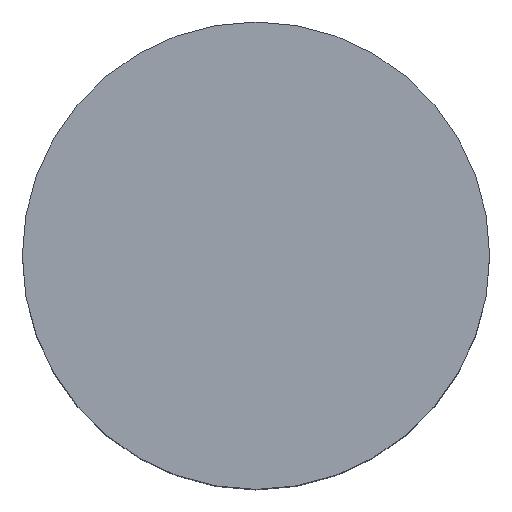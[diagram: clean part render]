
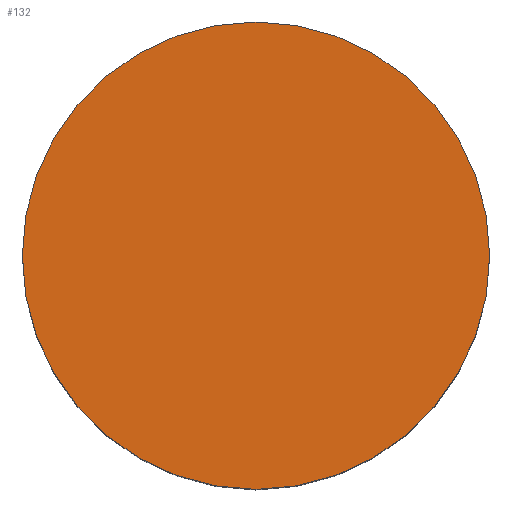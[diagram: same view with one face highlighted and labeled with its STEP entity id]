
A CAD part, top view. The second image highlights one B-rep face of the part: STEP entity #132.
In plain terms, the highlighted planar face has unit normal (0, 0, 1).
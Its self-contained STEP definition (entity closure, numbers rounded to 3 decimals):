
#4 = ORIENTED_EDGE ( 'NONE', *, *, #75, .T. ) ;
#10 = CIRCLE ( 'NONE', #52, 4.95 ) ;
#12 = PLANE ( 'NONE',  #146 ) ;
#23 = DIRECTION ( 'NONE',  ( 0., 0., 1. ) ) ;
#24 = CARTESIAN_POINT ( 'NONE',  ( 0., 0., 7.1 ) ) ;
#25 = DIRECTION ( 'NONE',  ( 1., 0., 0. ) ) ;
#28 = EDGE_LOOP ( 'NONE', ( #4, #73 ) ) ;
#43 = CARTESIAN_POINT ( 'NONE',  ( 0., 0., 7.1 ) ) ;
#52 = AXIS2_PLACEMENT_3D ( 'NONE', #98, #23, #99 ) ;
#62 = VERTEX_POINT ( 'NONE', #96 ) ;
#68 = AXIS2_PLACEMENT_3D ( 'NONE', #43, #69, #25 ) ;
#69 = DIRECTION ( 'NONE',  ( 0., 0., 1. ) ) ;
#73 = ORIENTED_EDGE ( 'NONE', *, *, #155, .T. ) ;
#75 = EDGE_CURVE ( 'NONE', #161, #62, #10, .T. ) ;
#80 = DIRECTION ( 'NONE',  ( 1., 0., 0. ) ) ;
#81 = DIRECTION ( 'NONE',  ( 0., 0., 1. ) ) ;
#96 = CARTESIAN_POINT ( 'NONE',  ( 4.95, 0., 7.1 ) ) ;
#98 = CARTESIAN_POINT ( 'NONE',  ( 0., 0., 7.1 ) ) ;
#99 = DIRECTION ( 'NONE',  ( 1., 0., 0. ) ) ;
#107 = FACE_OUTER_BOUND ( 'NONE', #28, .T. ) ;
#132 = ADVANCED_FACE ( 'NONE', ( #107 ), #12, .T. ) ;
#134 = CIRCLE ( 'NONE', #68, 4.95 ) ;
#146 = AXIS2_PLACEMENT_3D ( 'NONE', #24, #81, #80 ) ;
#155 = EDGE_CURVE ( 'NONE', #62, #161, #134, .T. ) ;
#160 = CARTESIAN_POINT ( 'NONE',  ( -4.95, 0., 7.1 ) ) ;
#161 = VERTEX_POINT ( 'NONE', #160 ) ;
